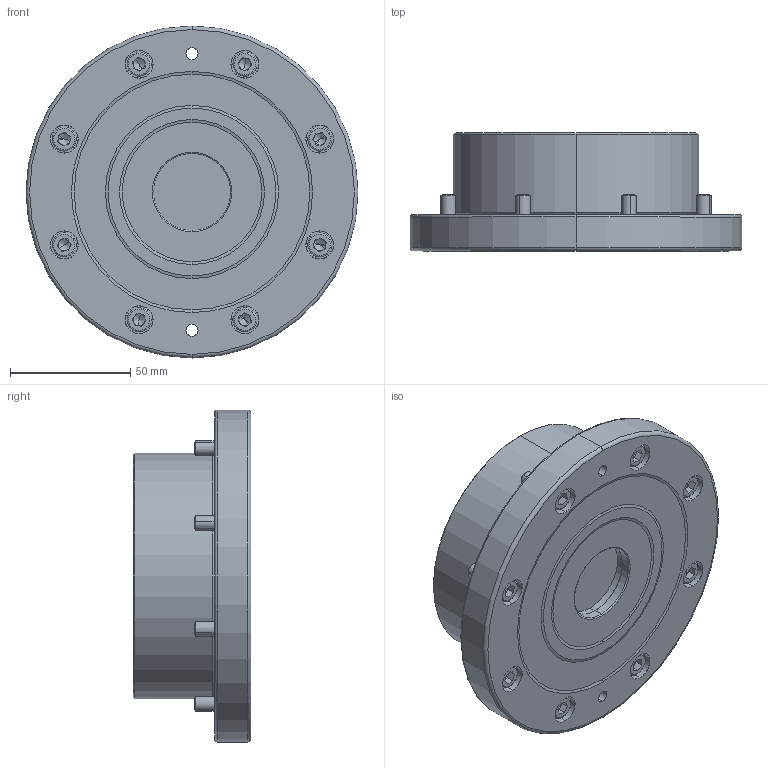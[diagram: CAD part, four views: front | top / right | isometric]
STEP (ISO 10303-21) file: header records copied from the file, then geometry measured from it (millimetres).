
FILE_DESCRIPTION (( 'STEP AP214' ), '1' );
FILE_NAME ('LQNC-20.STEP', '2019-03-09T03:47:28', ( '' ), ( '' ), 'SwSTEP 2.0', 'SolidWorks 2018', '' );
FILE_SCHEMA (( 'AUTOMOTIVE_DESIGN' ));
Length unit declared in the file: millimetre
Products named in the file (1): LQNC-20
Bounding box: 138 x 49 x 138 mm (x, y, z)
Volume: 492708.5 mm3; surface area: 58228 mm2
Topology: 11 solids, 11 shells, 378 faces, 818 edges, 478 vertices
Faces by surface type: plane 169, cylinder 86, cone 73, torus 50
Entity records: 14386 total; most frequent: DIRECTION 1952, CARTESIAN_POINT 1661, ORIENTED_EDGE 1596, EDGE_CURVE 798, AXIS2_PLACEMENT_3D 777, VERTEX_POINT 478, EDGE_LOOP 434, CIRCLE 398
